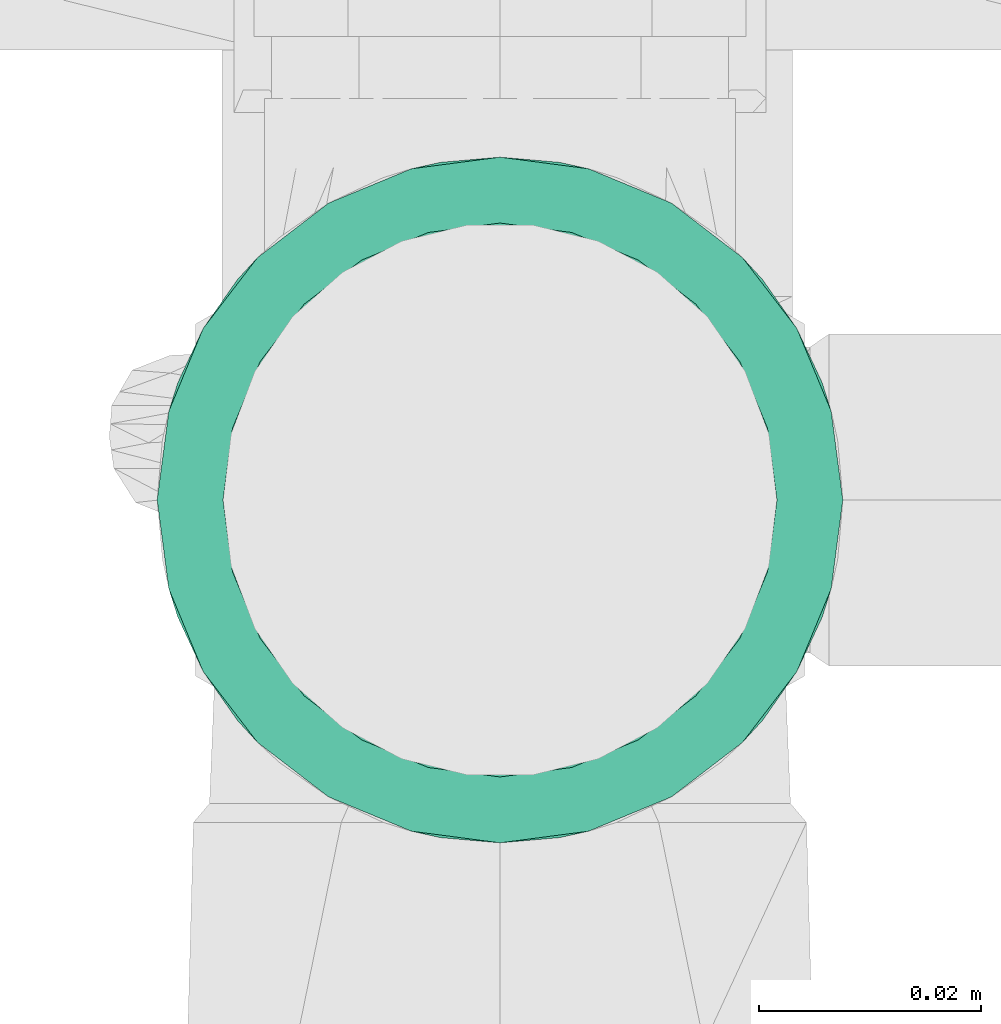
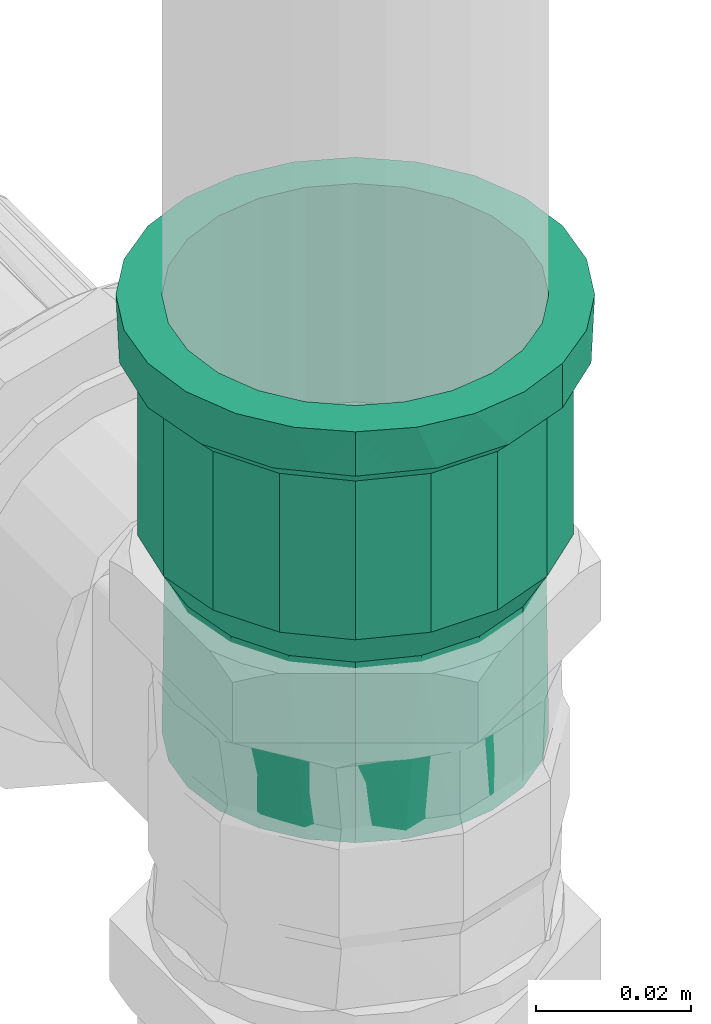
# One storey, part 239 of 589: 1 flow fitting.
"""IFC2X3 building model written with IfcOpenShell, lengths in millimetres."""

from ifc_helpers import new_model, entity, si_unit, converted_unit, derived_unit, direction, frame, origin, place, context, subcontext, project, spatial, faceted_brep, source, transform, mapped, material, type_object, type_shapes, element, save


model = new_model("IFC2X3")

# Units and contexts
model_context = context("Model", 3, precision=0.01, world=origin(), true_north=direction((6.123031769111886e-17, 1.0)))
body_context = subcontext(model_context, "Body", "Model", "MODEL_VIEW")
ifc_project = project(units=[si_unit("LENGTHUNIT", "METRE", prefix="MILLI"), si_unit("AREAUNIT", "SQUARE_METRE"), si_unit("VOLUMEUNIT", "CUBIC_METRE"), converted_unit("PLANEANGLEUNIT", "DEGREE", entity("IfcRatioMeasure", 0.017453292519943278), si_unit("PLANEANGLEUNIT", "RADIAN"), dimensions=[0, 0, 0, 0, 0, 0, 0]), si_unit("MASSUNIT", "GRAM", prefix="KILO"), derived_unit("MASSDENSITYUNIT", [(si_unit("MASSUNIT", "GRAM", prefix="KILO"), 1), (si_unit("LENGTHUNIT", "METRE"), -3)]), derived_unit("IONCONCENTRATIONUNIT", [(si_unit("MASSUNIT", "GRAM", prefix="KILO"), 1), (si_unit("LENGTHUNIT", "METRE"), -3)]), derived_unit("MOMENTOFINERTIAUNIT", [(si_unit("LENGTHUNIT", "METRE"), 4)]), si_unit("TIMEUNIT", "SECOND"), si_unit("FREQUENCYUNIT", "HERTZ"), si_unit("THERMODYNAMICTEMPERATUREUNIT", "DEGREE_CELSIUS"), derived_unit("THERMALTRANSMITTANCEUNIT", [(si_unit("MASSUNIT", "GRAM", prefix="KILO"), 1), (si_unit("THERMODYNAMICTEMPERATUREUNIT", "KELVIN"), -1), (si_unit("TIMEUNIT", "SECOND"), -3)]), derived_unit("THERMALCONDUCTANCEUNIT", [(si_unit("MASSUNIT", "GRAM", prefix="KILO"), 1), (si_unit("THERMODYNAMICTEMPERATUREUNIT", "KELVIN"), -1), (si_unit("TIMEUNIT", "SECOND"), -3), (si_unit("LENGTHUNIT", "METRE"), 1)]), derived_unit("VOLUMETRICFLOWRATEUNIT", [(si_unit("LENGTHUNIT", "METRE"), 3), (si_unit("TIMEUNIT", "SECOND"), -1)]), derived_unit("MASSFLOWRATEUNIT", [(si_unit("MASSUNIT", "GRAM", prefix="KILO"), 1), (si_unit("TIMEUNIT", "SECOND"), -1)]), derived_unit("ROTATIONALFREQUENCYUNIT", [(si_unit("TIMEUNIT", "SECOND"), -1)]), si_unit("ELECTRICCURRENTUNIT", "AMPERE"), si_unit("ELECTRICVOLTAGEUNIT", "VOLT"), si_unit("POWERUNIT", "WATT"), si_unit("FORCEUNIT", "NEWTON", prefix="KILO"), si_unit("ILLUMINANCEUNIT", "LUX"), si_unit("LUMINOUSFLUXUNIT", "LUMEN"), si_unit("LUMINOUSINTENSITYUNIT", "CANDELA"), derived_unit("USERDEFINED", [(si_unit("MASSUNIT", "GRAM", prefix="KILO"), -1), (si_unit("LENGTHUNIT", "METRE"), -2), (si_unit("TIMEUNIT", "SECOND"), 3), (si_unit("LUMINOUSFLUXUNIT", "LUMEN"), 1)]), derived_unit("USERDEFINED", [(si_unit("MASSUNIT", "GRAM", prefix="KILO"), 1), (si_unit("TIMEUNIT", "SECOND"), -3), (si_unit("LENGTHUNIT", "METRE"), 3), (si_unit("ELECTRICCURRENTUNIT", "AMPERE"), -2)]), derived_unit("SOUNDPOWERUNIT", [(si_unit("MASSUNIT", "GRAM", prefix="KILO"), 1), (si_unit("TIMEUNIT", "SECOND"), -3), (si_unit("LENGTHUNIT", "METRE"), 2)]), derived_unit("SOUNDPRESSUREUNIT", [(si_unit("MASSUNIT", "GRAM", prefix="KILO"), 1), (si_unit("LENGTHUNIT", "METRE"), -1), (si_unit("TIMEUNIT", "SECOND"), -2)]), derived_unit("LINEARVELOCITYUNIT", [(si_unit("LENGTHUNIT", "METRE"), 1), (si_unit("TIMEUNIT", "SECOND"), -1)]), si_unit("PRESSUREUNIT", "PASCAL"), derived_unit("USERDEFINED", [(si_unit("MASSUNIT", "GRAM", prefix="KILO"), 1), (si_unit("LENGTHUNIT", "METRE"), -2), (si_unit("TIMEUNIT", "SECOND"), -2)]), derived_unit("LINEARFORCEUNIT", [(si_unit("MASSUNIT", "GRAM", prefix="KILO"), 1), (si_unit("TIMEUNIT", "SECOND"), -2)]), derived_unit("PLANARFORCEUNIT", [(si_unit("MASSUNIT", "GRAM", prefix="KILO"), 1), (si_unit("LENGTHUNIT", "METRE"), -1), (si_unit("TIMEUNIT", "SECOND"), -2)]), derived_unit("SPECIFICHEATCAPACITYUNIT", [(si_unit("THERMODYNAMICTEMPERATUREUNIT", "KELVIN"), -1), (si_unit("LENGTHUNIT", "METRE"), 2), (si_unit("TIMEUNIT", "SECOND"), -2)]), derived_unit("HEATINGVALUEUNIT", [(si_unit("LENGTHUNIT", "METRE"), 2), (si_unit("TIMEUNIT", "SECOND"), -2)]), derived_unit("VAPORPERMEABILITYUNIT", [(si_unit("LENGTHUNIT", "METRE"), -1), (si_unit("TIMEUNIT", "SECOND"), 1)]), derived_unit("DYNAMICVISCOSITYUNIT", [(si_unit("MASSUNIT", "GRAM", prefix="KILO"), 1), (si_unit("TIMEUNIT", "SECOND"), -1), (si_unit("LENGTHUNIT", "METRE"), -1)]), derived_unit("THERMALEXPANSIONCOEFFICIENTUNIT", [(si_unit("THERMODYNAMICTEMPERATUREUNIT", "KELVIN"), -1)]), derived_unit("MODULUSOFELASTICITYUNIT", [(si_unit("MASSUNIT", "GRAM", prefix="KILO"), 1), (si_unit("LENGTHUNIT", "METRE"), -1), (si_unit("TIMEUNIT", "SECOND"), -2)]), derived_unit("ISOTHERMALMOISTURECAPACITYUNIT", [(si_unit("LENGTHUNIT", "METRE"), 3), (si_unit("MASSUNIT", "GRAM", prefix="KILO"), -1)]), derived_unit("MOISTUREDIFFUSIVITYUNIT", [(si_unit("TIMEUNIT", "SECOND"), -1), (si_unit("LENGTHUNIT", "METRE"), 2)])], contexts=[model_context])

# Site, building, storey
site_placement = place(None, origin())
site = spatial("IfcSite", under=ifc_project, at=site_placement, Name="Default", CompositionType="ELEMENT")
building_placement = place(site_placement, origin())
building = spatial("IfcBuilding", under=site, at=building_placement, CompositionType="ELEMENT")
storey_placement = place(building_placement, frame((0.0, 0.0, 100.0)))
storey = spatial("IfcBuildingStorey", under=building, at=storey_placement, Name="TÉRREO", CompositionType="ELEMENT", Elevation=100.0)

# Flow fitting
ifc_material = material(Name="PVC Marrom")
pipe_fitting_type = type_object("IfcPipeFittingType", Name="PVC Marrom Soldável_Adaptador Curto com Bolsa e Rosca Aninhado_Rodrigo MEP:Adaptador", PredefinedType="NOTDEFINED", material=ifc_material)
shared_shape = source(origin(), body_context, "Body", "Brep", [
    faceted_brep([(0.0, 12.499999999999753, -21.65063509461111), (0.0, 21.884954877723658, -21.88495487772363), (0.0, 15.475000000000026, -26.803486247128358), (0.0, 17.677669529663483, -17.6776695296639), (0.0, 6.470476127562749, -24.14814565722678), (0.0, 26.803486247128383, -15.474999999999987), (0.0, 21.650635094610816, -12.500000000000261), (0.0, 24.148145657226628, -6.470476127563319), (0.0, 29.895404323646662, -8.01044944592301), (0.0, 25.0, 0.0), (0.0, 30.95, 0.0), (0.0, 24.14814565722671, 6.470476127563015), (0.0, 29.895404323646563, 8.010449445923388), (0.0, 21.65063509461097, 12.499999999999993), (0.0, 26.80348624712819, 15.475000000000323), (0.0, 17.6776695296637, 17.677669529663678), (0.0, 21.884954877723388, 21.884954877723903), (0.0, 12.500000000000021, 21.65063509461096), (0.0, 15.474999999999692, 26.803486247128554), (0.0, 6.4704761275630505, 24.1481456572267), (0.0, 8.010449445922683, 29.89540432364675), (0.0, 0.0, 25.0), (0.0, 0.0, 30.95), (0.0, -6.4704761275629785, 24.14814565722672), (0.0, -8.010449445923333, 29.895404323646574), (0.0, -12.49999999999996, 21.650635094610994), (0.0, -15.475000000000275, 26.803486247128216), (0.0, -17.677669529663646, 17.67766952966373), (0.0, -21.884954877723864, 21.884954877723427), (0.0, -21.65063509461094, 12.500000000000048), (0.0, -26.803486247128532, 15.474999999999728), (0.0, -29.89540432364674, 8.010449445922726), (0.0, -24.14814565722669, 6.4704761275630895), (0.0, -30.95, 0.0), (0.0, -25.0, 0.0), (0.0, -29.895404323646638, -8.010449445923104), (0.0, -24.148145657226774, -6.470476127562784), (0.0, -26.803486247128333, -15.475000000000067), (0.0, -21.6506350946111, -12.499999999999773), (0.0, -21.884954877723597, -21.884954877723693), (0.0, -17.677669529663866, -17.67766952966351), (0.0, -15.474999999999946, -26.803486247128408), (0.0, -12.500000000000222, -21.650635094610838), (0.0, -8.010449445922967, -29.895404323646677), (0.0, -6.470476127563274, -24.148145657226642), (0.0, 0.0, -30.95), (0.0, 0.0, -25.0), (0.0, 8.010449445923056, -29.895404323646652), (7.0, -30.016595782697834, 5.29316701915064), (7.0, -29.88065133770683, 6.064083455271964), (7.0, -29.083191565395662, 10.586334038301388), (7.0, -23.70796650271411, 19.895598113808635), (7.0, -19.590362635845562, 23.350189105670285), (7.0, -26.395579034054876, 15.24096607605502), (7.0, -5.3710129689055, 30.480398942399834), (7.0, -10.421885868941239, 28.6425895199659), (7.0, -30.95, 0.0), (7.0, -15.472758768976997, 26.804780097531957), (7.0, 10.42907040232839, 28.639974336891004), (7.0, 15.479482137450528, 26.80089798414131), (7.0, 5.37865866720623, 30.479050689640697), (7.0, 19.596219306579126, 23.345274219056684), (7.0, 23.712956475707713, 19.889650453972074), (7.0, 29.08584618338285, 10.57903832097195), (7.0, 30.95, 0.0), (7.0, 26.39940132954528, 15.234344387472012), (7.0, 0.0038228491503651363, 30.47972481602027), (7.0, 29.08584618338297, -10.579038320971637), (7.0, 23.71295647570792, -19.88965045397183), (7.0, 19.596219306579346, -23.3452742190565), (7.0, 26.39940132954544, -15.234344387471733), (7.0, 5.378658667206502, -30.47905068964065), (7.0, 10.429070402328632, -28.639974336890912), (7.0, 15.47948213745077, -26.800897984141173), (7.0, -30.0165957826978, -5.2931670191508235), (7.0, -10.421885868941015, -28.642589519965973), (7.0, -15.472758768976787, -26.804780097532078), (7.0, -5.3710129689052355, -30.480398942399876), (7.0, -19.590362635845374, -23.350189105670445), (7.0, -23.707966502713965, -19.895598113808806), (7.0, -29.083191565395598, -10.58633403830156), (7.0, -29.88065131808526, -6.064083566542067), (7.0, -26.395579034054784, -15.240966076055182), (7.0, 0.003822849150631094, -30.479724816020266), (9.400000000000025, -26.87493630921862, 9.782525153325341), (9.400000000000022, -27.737468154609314, 4.891262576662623), (34.4499999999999, -26.875116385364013, 9.782030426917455), (9.40000000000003, -18.102887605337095, 21.577234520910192), (34.4499999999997, -14.299296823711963, 24.768732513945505), (9.400000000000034, -14.297928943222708, 24.769522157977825), (9.400000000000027, -24.391391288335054, 14.083736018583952), (34.44999999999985, -24.391819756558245, 14.083085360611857), (34.4499999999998, -21.908523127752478, 18.384140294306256), (34.44999999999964, -4.965271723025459, 28.165689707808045), (9.400000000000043, -4.963197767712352, 28.16605524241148), (9.400000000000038, -9.63056335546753, 26.467788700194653), (9.400000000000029, -21.907846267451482, 18.384946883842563), (9.40000000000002, -28.600000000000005, 0.0), (34.44999999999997, -27.796398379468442, 4.557325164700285), (34.44999999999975, -18.103909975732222, 21.57643640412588), (34.44999999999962, 4.967670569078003, 28.165266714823), (9.400000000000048, 0.003532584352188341, 28.165432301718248), (34.44999999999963, 0.0011994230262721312, 28.165478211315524), (34.44999999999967, -9.632284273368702, 26.46721111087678), (9.400000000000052, 4.970262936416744, 28.164809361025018), (9.400000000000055, 9.63720237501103, 26.465372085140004), (34.449999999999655, 14.301406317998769, 24.76751455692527), (9.40000000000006, 14.304141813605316, 24.765934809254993), (34.449999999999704, 18.105747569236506, 21.574894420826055), (34.44999999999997, -27.73755819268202, 4.891015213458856), (34.449999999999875, 26.875949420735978, 9.779741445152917), (34.450000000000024, 28.600000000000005, 0.0), (9.400000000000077, 26.87738936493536, 9.77578339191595), (34.449999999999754, 21.910088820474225, 18.38227428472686), (9.40000000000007, 21.91245735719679, 18.379450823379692), (9.400000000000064, 18.108299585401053, 21.57269281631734), (34.44999999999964, 9.634538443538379, 26.46639063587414), (9.400000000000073, 24.394923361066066, 14.077617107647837), (34.450000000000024, -28.600000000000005, 0.0), (9.40000000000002, 28.600000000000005, 0.0), (34.44999999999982, 24.3930191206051, 14.081007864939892), (9.40000000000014, 26.87738936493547, -9.77578339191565), (34.45000000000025, 26.87594942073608, -9.77974144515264), (9.400000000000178, -18.10288760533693, -21.577234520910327), (34.45000000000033, -14.299296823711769, -24.76873251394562), (34.45000000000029, -18.10390997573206, -21.57643640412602), (9.400000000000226, 18.108299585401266, -21.57269281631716), (9.400000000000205, 21.912457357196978, -18.37945082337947), (34.450000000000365, 21.910088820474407, -18.38227428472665), (9.400000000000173, 24.394923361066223, -14.077617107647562), (34.45000000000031, 24.393019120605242, -14.081007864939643), (9.40000000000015, -21.907846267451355, -18.384946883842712), (34.45000000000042, 0.0011994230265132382, -28.165478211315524), (9.400000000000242, -4.963197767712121, -28.166055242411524), (9.40000000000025, 0.0035325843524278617, -28.165432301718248), (9.40000000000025, 9.637202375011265, -26.46537208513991), (9.400000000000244, 14.304141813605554, -24.765934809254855), (34.45000000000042, 14.301406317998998, -24.76751455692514), (9.400000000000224, -9.63056335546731, -26.467788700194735), (34.45000000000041, -4.965271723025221, -28.165689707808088), (34.45000000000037, -9.632284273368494, -26.467211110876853), (34.45000000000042, 9.634538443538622, -26.46639063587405), (9.400000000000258, 4.970262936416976, -28.164809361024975), (9.400000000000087, -26.874936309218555, -9.782525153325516), (9.40000000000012, -24.391391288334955, -14.083736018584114), (34.45000000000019, -24.391819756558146, -14.083085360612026), (34.450000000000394, 18.1057475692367, -21.574894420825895), (34.450000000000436, 4.967670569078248, -28.16526671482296), (34.45000000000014, -26.875116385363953, -9.782030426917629), (34.45000000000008, -27.796398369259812, -4.557325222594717), (9.400000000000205, -14.297928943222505, -24.769522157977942), (9.400000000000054, -27.737468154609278, -4.891262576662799), (34.450000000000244, -21.908523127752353, -18.38414029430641), (34.45000000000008, -27.737558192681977, -4.891015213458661), (69.0, 6.4704761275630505, -24.1481456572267), (69.0, 12.500000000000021, -21.65063509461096), (69.0, 17.6776695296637, -17.677669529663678), (69.0, 21.650635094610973, -12.499999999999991), (69.0, 24.14814565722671, -6.470476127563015), (69.0, 25.0, 0.0), (69.0, 24.148145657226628, 6.470476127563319), (69.0, 21.650635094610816, 12.500000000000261), (69.0, 17.677669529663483, 17.6776695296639), (69.0, 12.499999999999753, 21.65063509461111), (69.0, 6.470476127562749, 24.14814565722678), (69.0, 0.0, 25.0), (69.0, -6.470476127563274, 24.148145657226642), (69.0, -12.500000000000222, 21.650635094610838), (69.0, -17.67766952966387, 17.677669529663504), (69.0, -21.650635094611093, 12.499999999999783), (69.0, -24.148145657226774, 6.470476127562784), (69.0, -25.0, 0.0), (69.0, -24.14814565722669, -6.4704761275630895), (69.0, -21.650635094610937, -12.500000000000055), (69.0, -17.677669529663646, -17.67766952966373), (69.0, -12.49999999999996, -21.650635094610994), (69.0, -6.4704761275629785, -24.14814565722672), (69.0, 0.0, -25.0), (40.499999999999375, -8.41832461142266, 23.136178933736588), (40.49999999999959, -19.1502152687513, 16.070757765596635), (40.49999999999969, -21.321146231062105, 12.310958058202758), (40.49999999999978, -23.492077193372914, 8.551158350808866), (40.49999999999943, -12.498189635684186, 21.651680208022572), (40.49999999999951, -15.824202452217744, 18.861218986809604), (40.49999999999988, -24.246038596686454, 4.2755791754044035), (40.49999999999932, -4.3384595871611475, 24.620677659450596), (40.499999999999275, 4.344635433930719, 24.61958860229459), (40.499999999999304, 0.003087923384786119, 24.620133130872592), (40.49999999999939, 15.828933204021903, 18.85724896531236), (40.49999999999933, 12.503620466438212, 21.648544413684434), (40.49999999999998, -25.0, 0.0), (40.49999999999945, 19.154245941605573, 16.065953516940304), (40.49999999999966, 23.494221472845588, 8.545265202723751), (40.499999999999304, 8.424127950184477, 23.13406650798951), (40.49999999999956, 21.324233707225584, 12.305609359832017), (40.49999999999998, 25.0, 0.0), (40.500000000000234, 19.15424594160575, -16.065953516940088), (40.500000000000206, -15.824202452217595, -18.861218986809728), (40.50000000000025, -12.498189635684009, -21.65168020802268), (40.500000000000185, 21.32423370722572, -12.305609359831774), (40.50000000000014, 23.494221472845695, -8.545265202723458), (40.5000000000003, 12.503620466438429, -21.64854441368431), (40.50000000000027, 15.82893320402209, -18.8572489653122), (40.50000000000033, 4.344635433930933, -24.619588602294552), (40.50000000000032, 8.42412795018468, -23.13406650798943), (40.5000000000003, -4.3384595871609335, -24.62067765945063), (40.50000000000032, 0.00308792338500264, -24.620133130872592), (40.50000000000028, -8.41832461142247, -23.136178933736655), (40.50000000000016, -19.150215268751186, -16.070757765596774), (40.50000000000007, -23.49207719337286, -8.551158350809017), (40.500000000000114, -21.321146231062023, -12.31095805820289), (40.50000000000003, -24.246038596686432, -4.275579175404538), (9.40000000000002, -25.0, 0.0), (34.450000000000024, -25.0, 0.0), (34.450000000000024, -24.14814565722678, -6.470476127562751), (9.40000000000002, -24.14814565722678, -6.470476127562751), (7.0, -24.14814565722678, -6.470476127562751), (7.0, -25.0, 0.0), (34.450000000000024, -21.650635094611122, -12.499999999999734), (9.40000000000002, -21.650635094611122, -12.499999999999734), (7.0, -21.650635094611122, -12.499999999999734), (9.40000000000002, -12.500000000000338, -21.65063509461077), (7.0, -12.500000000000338, -21.65063509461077), (7.0, -17.677669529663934, -17.677669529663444), (9.40000000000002, -17.677669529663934, -17.677669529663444), (34.450000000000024, -17.677669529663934, -17.677669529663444), (34.450000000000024, -12.500000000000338, -21.65063509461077), (9.40000000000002, -6.470476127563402, -24.148145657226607), (7.0, -6.470476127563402, -24.148145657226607), (34.450000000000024, -6.470476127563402, -24.148145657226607), (34.450000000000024, 0.0, -25.0), (9.40000000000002, 0.0, -25.0), (7.0, 0.0, -25.0), (34.450000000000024, 6.470476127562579, -24.148145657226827), (9.40000000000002, 6.470476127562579, -24.148145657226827), (7.0, 6.470476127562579, -24.148145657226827), (34.450000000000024, 12.49999999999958, -21.65063509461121), (9.40000000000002, 12.49999999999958, -21.65063509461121), (7.0, 12.49999999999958, -21.65063509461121), (34.450000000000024, 24.148145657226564, -6.470476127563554), (34.450000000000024, 25.0, 0.0), (9.40000000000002, 25.0, 0.0), (7.0, 25.0, 0.0), (7.0, 24.14814565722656, -6.470476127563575), (9.40000000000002, 24.148145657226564, -6.470476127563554), (34.450000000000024, 17.677669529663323, -17.677669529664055), (9.40000000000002, 17.677669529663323, -17.677669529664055), (7.0, 17.677669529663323, -17.677669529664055), (34.450000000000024, 21.650635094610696, -12.500000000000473), (9.40000000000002, 21.650635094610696, -12.500000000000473), (7.0, 21.650635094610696, -12.500000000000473), (34.450000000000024, 24.148145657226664, 6.470476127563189), (9.40000000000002, 24.148145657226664, 6.470476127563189), (7.0, 24.148145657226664, 6.470476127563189), (34.450000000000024, 21.65063509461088, 12.50000000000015), (9.40000000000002, 21.65063509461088, 12.50000000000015), (7.0, 21.65063509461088, 12.50000000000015), (9.40000000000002, 12.49999999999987, 21.650635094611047), (7.0, 12.49999999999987, 21.650635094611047), (7.0, 17.677669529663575, 17.677669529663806), (9.40000000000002, 17.677669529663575, 17.677669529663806), (34.450000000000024, 17.677669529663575, 17.677669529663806), (34.450000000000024, 12.49999999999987, 21.650635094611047), (9.40000000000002, 6.470476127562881, 24.14814565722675), (7.0, 6.470476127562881, 24.14814565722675), (34.450000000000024, 6.470476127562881, 24.14814565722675), (34.450000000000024, 0.0, 25.0), (9.40000000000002, 0.0, 25.0), (7.0, 0.0, 25.0), (9.40000000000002, -17.677669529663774, 17.677669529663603), (7.0, -17.677669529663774, 17.677669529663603), (7.0, -12.50000000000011, 21.650635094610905), (9.40000000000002, -12.50000000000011, 21.650635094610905), (34.450000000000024, -12.50000000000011, 21.650635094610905), (34.450000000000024, -17.677669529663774, 17.677669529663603), (9.40000000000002, -24.14814565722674, 6.470476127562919), (7.0, -24.14814565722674, 6.470476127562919), (7.0, -21.650635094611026, 12.499999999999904), (9.40000000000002, -21.650635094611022, 12.499999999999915), (34.450000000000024, -21.650635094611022, 12.499999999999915), (34.450000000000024, -24.14814565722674, 6.470476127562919), (7.0, -6.470476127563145, 24.148145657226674), (9.40000000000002, -6.470476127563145, 24.148145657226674), (34.450000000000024, -6.470476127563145, 24.148145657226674)], [[[0, 1, 2]], [[3, 1, 0]], [[4, 0, 2]], [[1, 3, 5]], [[5, 3, 6]], [[5, 6, 7]], [[8, 5, 7]], [[9, 8, 7]], [[10, 8, 9]], [[10, 9, 11]], [[12, 10, 11]], [[12, 11, 13]], [[14, 12, 13]], [[14, 13, 15]], [[15, 16, 14]], [[15, 17, 16]], [[18, 16, 17]], [[19, 18, 17]], [[18, 19, 20]], [[21, 20, 19]], [[22, 20, 21]], [[21, 23, 22]], [[24, 22, 23]], [[25, 24, 23]], [[24, 25, 26]], [[25, 27, 26]], [[27, 28, 26]], [[28, 27, 29]], [[28, 29, 30]], [[30, 29, 31]], [[31, 29, 32]], [[33, 31, 32]], [[32, 34, 33]], [[33, 34, 35]], [[34, 36, 35]], [[37, 35, 36]], [[37, 36, 38]], [[39, 37, 38]], [[40, 39, 38]], [[40, 41, 39]], [[42, 41, 40]], [[43, 41, 42]], [[42, 44, 43]], [[43, 44, 45]], [[44, 46, 45]], [[46, 4, 47]], [[45, 46, 47]], [[2, 47, 4]], [[31, 48, 49, 50]], [[28, 51, 52]], [[51, 30, 50, 53]], [[54, 24, 55]], [[30, 31, 50]], [[56, 48, 33]], [[52, 57, 26]], [[52, 26, 28]], [[30, 51, 28]], [[58, 59, 18]], [[58, 18, 20]], [[26, 57, 55]], [[26, 55, 24]], [[22, 24, 54]], [[33, 48, 31]], [[20, 60, 58]], [[16, 61, 62]], [[12, 63, 64]], [[63, 14, 62, 65]], [[12, 64, 10]], [[18, 61, 16]], [[22, 54, 66, 60]], [[22, 60, 20]], [[14, 16, 62]], [[59, 61, 18]], [[14, 63, 12]], [[8, 64, 67]], [[1, 68, 69]], [[68, 5, 67, 70]], [[71, 47, 72]], [[5, 8, 67]], [[8, 10, 64]], [[2, 72, 47]], [[69, 73, 2]], [[5, 68, 1]], [[74, 33, 35]], [[75, 76, 41]], [[2, 73, 72]], [[75, 41, 43]], [[45, 47, 71]], [[69, 2, 1]], [[43, 77, 75]], [[39, 78, 79]], [[35, 80, 81, 74]], [[80, 37, 79, 82]], [[37, 80, 35]], [[41, 78, 39]], [[45, 71, 83, 77]], [[45, 77, 43]], [[37, 39, 79]], [[76, 78, 41]], [[74, 56, 33]], [[84, 85, 86]], [[87, 88, 89]], [[90, 91, 92]], [[93, 94, 95]], [[92, 96, 90]], [[85, 97, 98]], [[99, 87, 96]], [[91, 84, 86]], [[100, 101, 102]], [[93, 95, 103]], [[89, 103, 95]], [[84, 91, 90]], [[100, 104, 101]], [[88, 87, 99]], [[105, 106, 107]], [[108, 107, 106]], [[85, 98, 109, 86]], [[102, 94, 93]], [[110, 111, 112]], [[113, 114, 115]], [[116, 104, 100]], [[112, 117, 110]], [[113, 115, 108]], [[104, 116, 105]], [[97, 118, 98]], [[115, 107, 108]], [[119, 112, 111]], [[99, 96, 92]], [[117, 114, 120]], [[110, 117, 120]], [[103, 89, 88]], [[102, 101, 94]], [[120, 114, 113]], [[106, 105, 116]], [[121, 111, 122]], [[123, 124, 125]], [[126, 127, 128]], [[129, 122, 130]], [[125, 131, 123]], [[129, 121, 122]], [[132, 133, 134]], [[135, 136, 137]], [[138, 139, 140]], [[119, 111, 121]], [[130, 127, 129]], [[141, 142, 135]], [[143, 144, 145]], [[126, 128, 146]], [[134, 147, 132]], [[135, 137, 141]], [[132, 139, 133]], [[138, 133, 139]], [[137, 136, 146]], [[143, 145, 148]], [[147, 142, 141]], [[149, 118, 97]], [[123, 150, 124]], [[124, 150, 140]], [[148, 151, 143]], [[146, 136, 126]], [[152, 144, 131]], [[151, 148, 153, 149]], [[144, 152, 145]], [[152, 131, 125]], [[142, 147, 134]], [[149, 97, 151]], [[128, 127, 130]], [[140, 150, 138]], [[154, 155, 156, 157, 158, 159, 160, 161, 162, 163, 164, 165, 166, 167, 168, 169, 170, 171, 172, 173, 174, 175, 176, 177]], [[178, 167, 166]], [[169, 168, 179]], [[169, 179, 180, 181]], [[182, 183, 167]], [[170, 181, 184]], [[166, 185, 178]], [[179, 168, 183]], [[165, 186, 187, 185]], [[165, 185, 166]], [[167, 183, 168]], [[188, 189, 163]], [[184, 171, 170]], [[184, 190, 171]], [[161, 191, 162]], [[169, 181, 170]], [[161, 160, 192]], [[163, 193, 164]], [[161, 192, 194, 191]], [[195, 160, 159]], [[164, 193, 186]], [[186, 165, 164]], [[189, 193, 163]], [[188, 163, 162]], [[162, 191, 188]], [[160, 195, 192]], [[178, 182, 167]], [[195, 159, 158]], [[157, 156, 196]], [[197, 198, 175]], [[157, 196, 199, 200]], [[201, 202, 155]], [[200, 195, 158]], [[154, 203, 204]], [[196, 156, 202]], [[177, 205, 206, 203]], [[197, 175, 174]], [[155, 202, 156]], [[204, 201, 155]], [[175, 198, 207]], [[157, 200, 158]], [[204, 155, 154]], [[173, 208, 174]], [[173, 172, 209]], [[173, 209, 210, 208]], [[171, 190, 211]], [[205, 177, 176]], [[207, 205, 176]], [[175, 207, 176]], [[174, 208, 197]], [[211, 209, 172]], [[171, 211, 172]], [[177, 203, 154]], [[212, 213, 214, 215, 216, 36, 34, 217]], [[215, 214, 218, 219, 220, 38, 36, 216]], [[221, 222, 42, 40, 223, 224, 225, 226]], [[225, 224, 223, 40, 38, 220, 219, 218]], [[227, 228, 44, 42, 222, 221, 226, 229]], [[227, 229, 230, 231, 232, 46, 44, 228]], [[231, 230, 233, 234, 235, 4, 46, 232]], [[234, 233, 236, 237, 238, 0, 4, 235]], [[239, 240, 241, 242, 9, 7, 243, 244]], [[237, 236, 245, 246, 247, 3, 0, 238]], [[245, 248, 249, 250, 6, 3, 247, 246]], [[248, 239, 244, 243, 7, 6, 250, 249]], [[241, 240, 251, 252, 253, 11, 9, 242]], [[252, 251, 254, 255, 256, 13, 11, 253]], [[257, 258, 17, 15, 259, 260, 261, 262]], [[261, 260, 259, 15, 13, 256, 255, 254]], [[263, 264, 19, 17, 258, 257, 262, 265]], [[263, 265, 266, 267, 268, 21, 19, 264]], [[269, 270, 27, 25, 271, 272, 273, 274]], [[275, 276, 32, 29, 277, 278, 279, 280]], [[274, 279, 278, 277, 29, 27, 270, 269]], [[212, 217, 34, 32, 276, 275, 280, 213]], [[273, 272, 271, 25, 23, 281, 282, 283]], [[267, 266, 283, 282, 281, 23, 21, 268]], [[64, 119, 121, 67]], [[81, 80, 143, 151, 97, 56, 74]], [[73, 136, 135, 142, 71, 72]], [[71, 142, 134, 133, 77, 83]], [[73, 69, 68, 127, 126, 136]], [[127, 68, 70, 67, 121, 129]], [[77, 133, 138, 150, 76, 75]], [[143, 80, 82, 79, 131, 144]], [[78, 76, 150, 123, 131, 79]], [[84, 50, 49, 48, 56, 97, 85]], [[53, 50, 84, 90, 96, 51]], [[52, 51, 96, 87, 89, 57]], [[89, 95, 94, 54, 55, 57]], [[101, 104, 60, 66, 54, 94]], [[105, 107, 59, 58, 60, 104]], [[112, 119, 64, 63]], [[114, 117, 112, 63, 65, 62]], [[107, 115, 114, 62, 61, 59]], [[233, 230, 229, 226, 225, 218, 214, 213, 280, 279, 274, 273, 283, 266, 265, 262, 261, 254, 251, 240, 239, 248, 245, 236]], [[190, 109, 98, 118]], [[184, 86, 109]], [[181, 86, 184]], [[185, 93, 178]], [[103, 88, 182]], [[99, 92, 179]], [[182, 88, 183]], [[91, 86, 181]], [[103, 182, 178]], [[178, 93, 103]], [[102, 185, 187]], [[180, 92, 91]], [[187, 100, 102]], [[91, 181, 180]], [[183, 88, 99]], [[99, 179, 183]], [[187, 186, 100]], [[191, 113, 188]], [[116, 100, 186]], [[179, 92, 180]], [[93, 185, 102]], [[189, 106, 193]], [[192, 195, 111]], [[120, 113, 191]], [[192, 110, 194]], [[108, 106, 189]], [[120, 191, 194]], [[194, 110, 120]], [[109, 190, 184]], [[188, 113, 108]], [[192, 111, 110]], [[108, 189, 188]], [[193, 106, 116]], [[116, 186, 193]], [[195, 200, 111]], [[203, 141, 204]], [[201, 146, 202]], [[196, 130, 199]], [[203, 147, 141]], [[201, 137, 146]], [[205, 132, 206]], [[196, 128, 130]], [[202, 128, 196]], [[111, 200, 122]], [[199, 130, 122]], [[146, 128, 202]], [[207, 139, 205]], [[206, 147, 203]], [[204, 141, 137]], [[199, 122, 200]], [[205, 139, 132]], [[204, 137, 201]], [[198, 124, 140]], [[198, 140, 207]], [[190, 153, 211]], [[209, 145, 210]], [[190, 118, 149, 153]], [[209, 148, 145]], [[208, 125, 197]], [[208, 152, 125]], [[210, 152, 208]], [[139, 207, 140]], [[125, 124, 197]], [[210, 145, 152]], [[211, 153, 148]], [[197, 124, 198]], [[206, 132, 147]], [[211, 148, 209]]]),
])
type_shapes(pipe_fitting_type, [shared_shape])
flow_fitting_placement = place(storey_placement, frame((-87.78535366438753, 3119.2147625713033, 2275.0), z_axis=(0.0, 1.0, 0.0), x_axis=(0.0, 0.0, -1.0)))
element("IfcFlowFitting", 1, at=flow_fitting_placement, inside=storey, type_object=pipe_fitting_type, material=ifc_material, Name="PVC Marrom Soldável_Adaptador Curto com Bolsa e Rosca Aninhado_Rodrigo MEP:Adaptador", ObjectType="PVC Marrom Soldável_Adaptador Curto com Bolsa e Rosca Aninhado_Rodrigo MEP:Adaptador", context=body_context, shape_type="MappedRepresentation", body=[
    mapped(shared_shape, transform((0.0, 0.0, 0.0), scale=1.0)),
])

save(model, "model.ifc")
